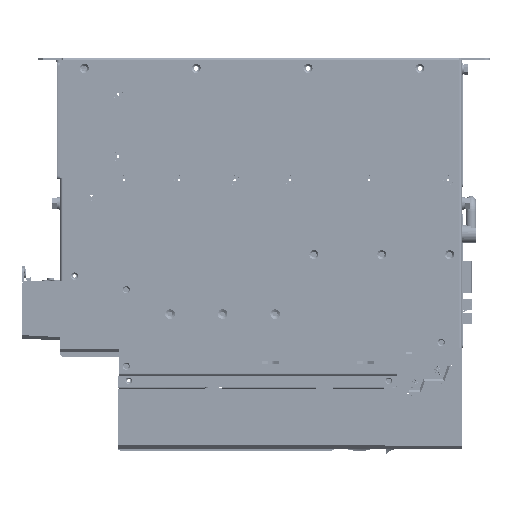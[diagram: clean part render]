
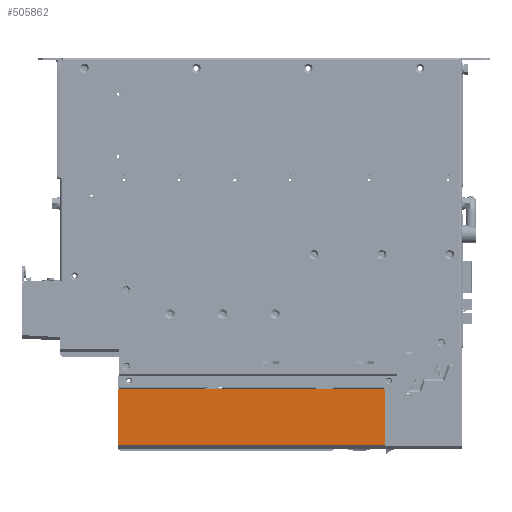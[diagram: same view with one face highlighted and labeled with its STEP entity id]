
A CAD part, front view. The second image highlights one B-rep face of the part: STEP entity #505862.
In plain terms, the highlighted planar face has unit normal (0, -1, 0) as drawn and (-1, 0, 0) by its records, which use the part's own axes.
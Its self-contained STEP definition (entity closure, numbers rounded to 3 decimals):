
#481078=DIRECTION('',(0.,-1.,0.));
#481079=VECTOR('',#481078,50.);
#481080=CARTESIAN_POINT('',(-49.75,23.5,0.));
#481081=LINE('',#481080,#481079);
#483349=DIRECTION('',(0.,0.,1.));
#483350=VECTOR('',#483349,236.1);
#483351=CARTESIAN_POINT('',(-49.75,-26.5,0.));
#483352=LINE('',#483351,#483350);
#489804=DIRECTION('',(0.,-1.,0.));
#489805=VECTOR('',#489804,50.);
#489806=CARTESIAN_POINT('',(-49.75,23.5,236.1));
#489807=LINE('',#489806,#489805);
#493078=DIRECTION('',(0.,0.,-1.));
#493079=VECTOR('',#493078,236.1);
#493080=CARTESIAN_POINT('',(-49.75,23.5,236.1));
#493081=LINE('',#493080,#493079);
#493954=CARTESIAN_POINT('',(-49.75,-26.5,0.));
#493955=CARTESIAN_POINT('',(-49.75,-26.5,236.1));
#493956=VERTEX_POINT('',#493954);
#493957=VERTEX_POINT('',#493955);
#493970=CARTESIAN_POINT('',(-49.75,23.5,0.));
#493972=VERTEX_POINT('',#493970);
#493976=CARTESIAN_POINT('',(-49.75,23.5,236.1));
#493977=VERTEX_POINT('',#493976);
#505851=CARTESIAN_POINT('',(-49.75,26.5,0.));
#505852=DIRECTION('',(-1.,0.,0.));
#505853=DIRECTION('',(0.,-1.,0.));
#505854=AXIS2_PLACEMENT_3D('',#505851,#505852,#505853);
#505855=PLANE('',#505854);
#505856=ORIENTED_EDGE('',*,*,#505846,.F.);
#505857=ORIENTED_EDGE('',*,*,#502989,.T.);
#505858=ORIENTED_EDGE('',*,*,#497940,.F.);
#505859=ORIENTED_EDGE('',*,*,#496357,.F.);
#505860=EDGE_LOOP('',(#505856,#505857,#505858,#505859));
#505861=FACE_OUTER_BOUND('',#505860,.F.);
#505862=ADVANCED_FACE('',(#505861),#505855,.T.);
#496357=EDGE_CURVE('',#493972,#493956,#481081,.T.);
#497940=EDGE_CURVE('',#493956,#493957,#483352,.T.);
#502989=EDGE_CURVE('',#493977,#493957,#489807,.T.);
#505846=EDGE_CURVE('',#493977,#493972,#493081,.T.);
